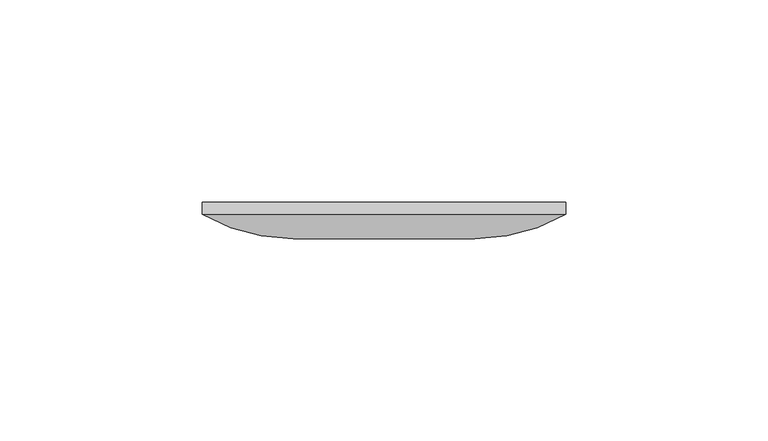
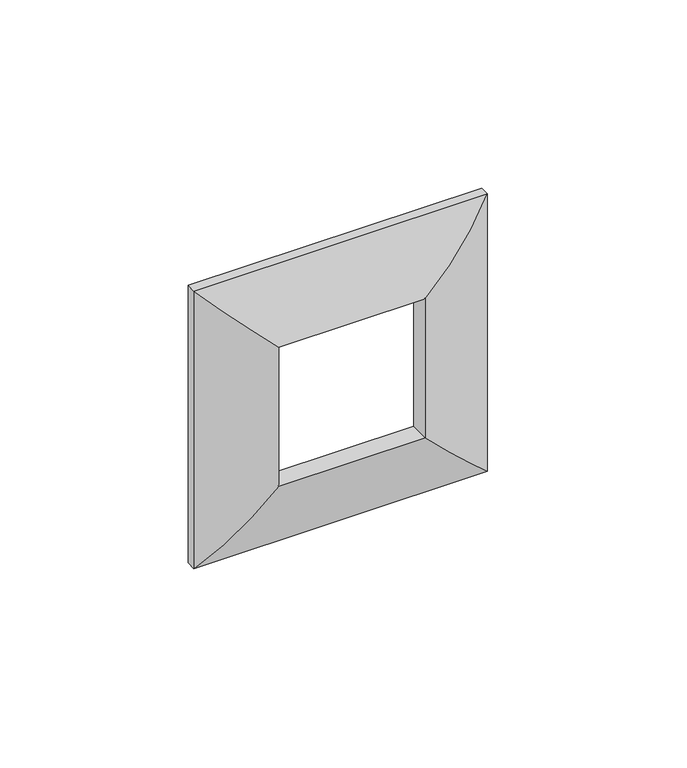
"""IFC4 building model written with IfcOpenShell, lengths in millimetres: proxy geometry."""

from ifc_helpers import new_model, si_unit, frame, origin, place, context, project, spatial, ellipse_curve, source, transform, mapped, element, save
from ifc_brep_helpers import plane_surface, cylinder_surface, advanced_brep


def electrical_fixtures_bac29046(model_context):
    return source(origin(), model_context, "Body", "AdvancedBrep", [
        advanced_brep(
        [(22.5, -3.0, -22.5), (22.5, -9.0, -22.5), (22.5, -9.0, 22.5), (22.5, -3.0, 22.5), (-22.5, -9.0, 22.5), (-22.5, -3.0, 22.5), (-22.5, -9.0, -22.5), (-22.5, -3.0, -22.5), (45.0, 0.0, -45.0), (-45.0, 0.0, -45.0), (-45.0, 0.0, 45.0), (45.0, 0.0, 45.0), (35.5, 0.0, 35.5), (-35.5, 0.0, 35.5), (-35.5, 0.0, -35.5), (35.5, 0.0, -35.5), (45.0, -3.0228771, -45.0), (45.0, -3.0228771, 45.0), (-45.0, -3.0228771, 45.0), (-45.0, -3.0228771, -45.0), (35.5, -3.0, -35.5), (35.5, -3.0, 35.5), (-35.5, -3.0, 35.5), (-35.5, -3.0, -35.5)],
        [
            (0, 1),
            (1, 2),
            (2, 3),
            (3, 0),
            (2, 4),
            (4, 5),
            (5, 3),
            (4, 6),
            (6, 7),
            (7, 5),
            (6, 1),
            (0, 7),
            (8, 9),
            (9, 10),
            (10, 11),
            (11, 8),
            (12, 13),
            (13, 14),
            (14, 15),
            (15, 12),
            (16, 8),
            (11, 17),
            (17, 16),
            (1, 16, ellipse_curve(frame((22.9967238, 34.4676878, -22.9967238), z_axis=(0.7071067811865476, 0.0, 0.7071067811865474), x_axis=(0.7071067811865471, 0.0, -0.7071067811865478)), 61.4766072, 43.4705258)),
            (17, 2, ellipse_curve(frame((22.9967238, 34.4676878, 22.9967238), z_axis=(0.7071067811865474, 0.0, -0.7071067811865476), x_axis=(-0.7071067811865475, 0.0, -0.7071067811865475)), 61.4766072, 43.4705258)),
            (10, 18),
            (18, 17),
            (18, 4, ellipse_curve(frame((-22.9967238, 34.4676878, 22.9967238), z_axis=(0.7071067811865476, 0.0, 0.7071067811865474), x_axis=(0.7071067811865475, 0.0, -0.7071067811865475)), 61.4766072, 43.4705258)),
            (9, 19),
            (19, 18),
            (19, 6, ellipse_curve(frame((-22.9967238, 34.4676878, -22.9967238), z_axis=(-0.7071067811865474, 0.0, 0.7071067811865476), x_axis=(0.7071067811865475, 0.0, 0.7071067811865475)), 61.4766072, 43.4705258)),
            (16, 19),
            (15, 20),
            (20, 21),
            (21, 12),
            (21, 22),
            (22, 13),
            (22, 23),
            (23, 14),
            (20, 23),
        ],
        [
            plane_surface(frame((22.5, -9.0, -22.5), z_axis=(-1.0, 0.0, 0.0), x_axis=(0.0, 0.0, 1.0))),
            plane_surface(frame((22.5, -9.0, 22.5), z_axis=(0.0, 0.0, -1.0), x_axis=(-1.0, 0.0, 0.0))),
            plane_surface(frame((-22.5, -9.0, 22.5), z_axis=(1.0, 0.0, 0.0), x_axis=(0.0, 0.0, -1.0))),
            plane_surface(frame((-22.5, -9.0, -22.5), z_axis=(0.0, 0.0, 1.0), x_axis=(1.0, 0.0, 0.0))),
            plane_surface(frame((-35.5, 0.0, -35.5), z_axis=(0.0, 1.0, 0.0), x_axis=(1.0, 0.0, 0.0))),
            plane_surface(frame((45.0, 0.0, -45.0), z_axis=(1.0, 0.0, 0.0), x_axis=(0.0, 0.0, 1.0))),
            cylinder_surface(frame((22.9967238, 34.4676878, -45.0), z_axis=(0.0, 0.0, -1.0), x_axis=(-1.0, 0.0, 0.0)), 43.4705258),
            plane_surface(frame((45.0, 0.0, 45.0), z_axis=(0.0, 0.0, 1.0), x_axis=(-1.0, 0.0, 0.0))),
            cylinder_surface(frame((45.0, 34.4676878, 22.9967238), z_axis=(1.0, 0.0, 0.0), x_axis=(0.0, 0.0, -1.0)), 43.4705258),
            plane_surface(frame((-45.0, 0.0, 45.0), z_axis=(-1.0, 0.0, 0.0), x_axis=(0.0, 0.0, -1.0))),
            cylinder_surface(frame((-22.9967238, 34.4676878, 45.0), z_axis=(0.0, 0.0, 1.0), x_axis=(1.0, 0.0, 0.0)), 43.4705258),
            plane_surface(frame((-45.0, 0.0, -45.0), z_axis=(0.0, 0.0, -1.0), x_axis=(1.0, 0.0, 0.0))),
            cylinder_surface(frame((-45.0, 34.4676878, -22.9967238), z_axis=(-1.0, 0.0, 0.0), x_axis=(0.0, 0.0, 1.0)), 43.4705258),
            plane_surface(frame((35.5, -3.0, -35.5), z_axis=(-1.0, 0.0, 0.0), x_axis=(0.0, 0.0, 1.0))),
            plane_surface(frame((35.5, -3.0, 35.5), z_axis=(0.0, 0.0, -1.0), x_axis=(-1.0, 0.0, 0.0))),
            plane_surface(frame((-35.5, -3.0, 35.5), z_axis=(1.0, 0.0, 0.0), x_axis=(0.0, 0.0, -1.0))),
            plane_surface(frame((-22.5, -3.0, -22.5), z_axis=(0.0, 1.0, 0.0), x_axis=(1.0, 0.0, 0.0))),
            plane_surface(frame((-35.5, -3.0, -35.5), z_axis=(0.0, 0.0, 1.0), x_axis=(1.0, 0.0, 0.0))),
        ],
        [
            (0, [[1, 2, 3, 4]]),
            (1, [[-3, 5, 6, 7]]),
            (2, [[-6, 8, 9, 10]]),
            (3, [[-9, 11, -1, 12]]),
            (4, [[13, 14, 15, 16], [17, 18, 19, 20]]),
            (5, [[21, -16, 22, 23]]),
            (6, [[24, -23, 25, -2]]),
            (7, [[-22, -15, 26, 27]]),
            (8, [[-25, -27, 28, -5]]),
            (9, [[-26, -14, 29, 30]]),
            (10, [[-28, -30, 31, -8]]),
            (11, [[-29, -13, -21, 32]]),
            (12, [[-31, -32, -24, -11]]),
            (13, [[33, 34, 35, -20]]),
            (14, [[-35, 36, 37, -17]]),
            (15, [[-37, 38, 39, -18]]),
            (16, [[40, -38, -36, -34], [-7, -10, -12, -4]]),
            (17, [[-39, -40, -33, -19]]),
        ],
    ),
    ])


if __name__ == "__main__":
    model = new_model("IFC4")
    model_context = context("Model", 3, world=origin())
    ifc_project = project(units=[si_unit("LENGTHUNIT", "METRE", prefix="MILLI")], contexts=[model_context])
    site = spatial("IfcSite", under=ifc_project)
    building = spatial("IfcBuilding", under=site)
    placement = place(None, origin())
    electrical_fixtures_shape = electrical_fixtures_bac29046(model_context)
    element("IfcBuildingElementProxy", 1, Name="Electrical Fixtures", at=placement, inside=building, context=model_context, shape_type="MappedRepresentation", body=[
        mapped(electrical_fixtures_shape, transform((0.0, 0.0, 0.0), x_axis=(1.0, 0.0, 0.0), y_axis=(0.0, 1.0, 0.0), z_axis=(0.0, 0.0, 1.0))),
    ])
    save(model, "model.ifc")
